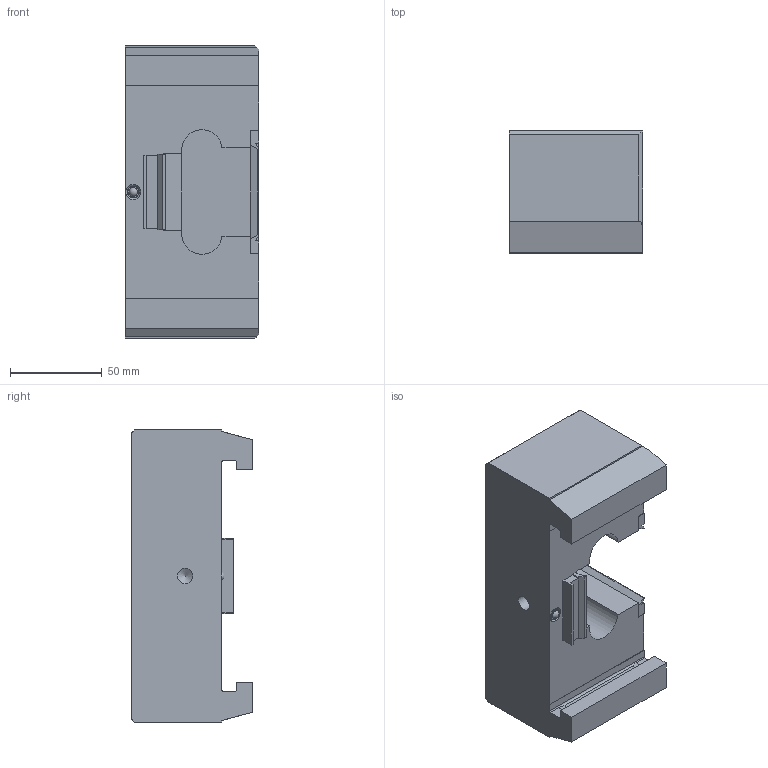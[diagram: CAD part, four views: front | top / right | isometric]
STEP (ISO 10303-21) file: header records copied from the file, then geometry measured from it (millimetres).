
FILE_DESCRIPTION (( 'STEP AP214' ), '1' );
FILE_NAME ('6921201002031.STEP', '2018-08-07T05:11:23', ( '' ), ( '' ), 'SwSTEP 2.0', 'SolidWorks 2016', '' );
FILE_SCHEMA (( 'AUTOMOTIVE_DESIGN' ));
Length unit declared in the file: millimetre
Products named in the file (6): 6921201006041; 8018900512000; 8022503004820_ISO 7380 - M3 x 4 --- 6N; 6921181005041; 6921201002000; 6921201002031
Assembly tree (8 placements, depth 2):
  6921201002031
    6921201002000
    6921181005041
    6921201006041
    8018900512000
    8022503004820_ISO 7380 - M3 x 4 --- 6N  x4
Bounding box: 73.2 x 66.5 x 160 mm (x, y, z)
Volume: 504262.8 mm3; surface area: 68448.7 mm2
Topology: 9 solids, 10 shells, 304 faces, 754 edges, 485 vertices
Faces by surface type: plane 199, cylinder 69, cone 24, torus 7, sphere 5
Full cylindrical faces by diameter (mm): 2.5 x4, 3 x4, 3.2 x4, 3.5 x1, 3.7 x2, 4.2 x1, 5 x1, 5.7 x4, 5.8 x4, 6 x6, 8.5 x1, 19 x1
Entity records: 7376 total; most frequent: CARTESIAN_POINT 1296, DIRECTION 1187, ORIENTED_EDGE 1122, EDGE_CURVE 561, VECTOR 413, LINE 413, VERTEX_POINT 392, AXIS2_PLACEMENT_3D 387
